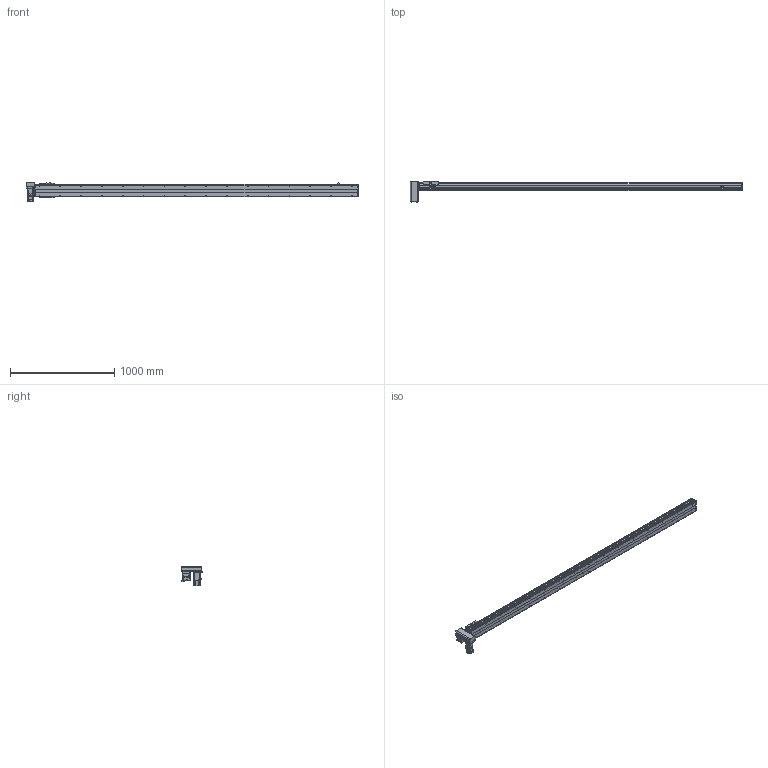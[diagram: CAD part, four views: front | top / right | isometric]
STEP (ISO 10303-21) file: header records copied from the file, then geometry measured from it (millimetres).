
FILE_DESCRIPTION(/* description */ ('STEP AP214'),/* implementation_level */ '2;1');
FILE_NAME(/* name */ 'PBS120-P40-S2800-RD-T40-C1-N(0)',/* time_stamp */ '2022-06-06T02:44:33+02:00',/* author */ ('License CC BY-ND 4.0'),/* organization */ ('CADENAS'),/* preprocessor_version */ 'ST-DEVELOPER v18.102',/* originating_system */ 'PARTsolutions',/* authorisation */ ' ');
FILE_SCHEMA (('AUTOMOTIVE_DESIGN {1 0 10303 214 3 1 1}'));
Length unit declared in the file: millimetre
Products named in the file (7): PBS120-P40-S2800-RD-T40-C1-N(0); PBS120_sensor; PBS120_plant; PBS120_sliser; T40-p1; PBS120T-RD_motors; PBS120-S2800()_body
Assembly tree (8 placements, depth 2):
  PBS120-P40-S2800-RD-T40-C1-N(0)
    PBS120_sensor  x3
    PBS120_plant
    PBS120_sliser
    T40-p1
    PBS120T-RD_motors
    PBS120-S2800()_body
Bounding box: 3186 x 196 x 189.7 mm (x, y, z)
Volume: 11820314.6 mm3; surface area: 2456349.3 mm2
Topology: 8 solids, 8 shells, 876 faces, 2236 edges, 1435 vertices
Faces by surface type: plane 565, cylinder 245, cone 64, torus 2
Full cylindrical faces by diameter (mm): 2.459 x6, 3.242 x4, 4 x2, 4.134 x4, 4.5 x10, 4.917 x36, 5.5 x11, 6 x2, 6.6 x1, 7 x2, 8.5 x4, 9 x4, 12 x1, 14 x1, 30 x2, 40 x1, 50 x2
Entity records: 22554 total; most frequent: DIRECTION 3932, CARTESIAN_POINT 3821, ORIENTED_EDGE 3598, EDGE_CURVE 1799, AXIS2_PLACEMENT_3D 1352, VERTEX_POINT 1241, LINE 1228, VECTOR 1228
